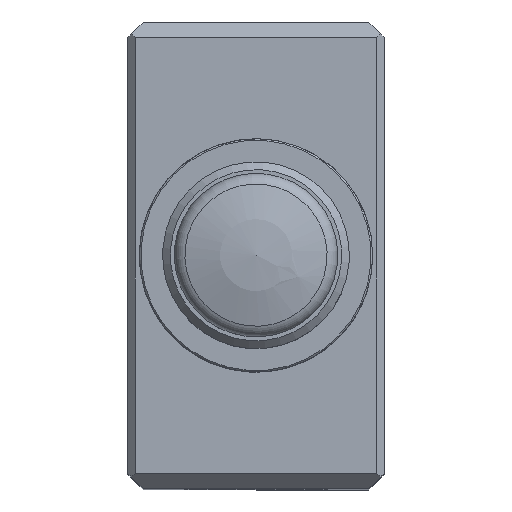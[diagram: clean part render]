
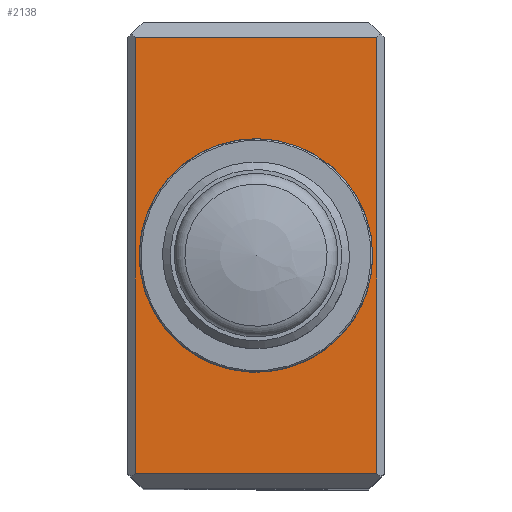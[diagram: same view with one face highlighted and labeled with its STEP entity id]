
A CAD part, top view. The second image highlights one B-rep face of the part: STEP entity #2138.
In plain terms, the highlighted planar face has unit normal (0, 0, 1).
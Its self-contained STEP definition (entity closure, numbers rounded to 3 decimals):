
#43 = LINE ( 'NONE', #3323, #3299 ) ;
#70 = EDGE_LOOP ( 'NONE', ( #557, #2715, #8290, #3292 ) ) ;
#98 = CARTESIAN_POINT ( 'NONE',  ( -7.75, 14., 40. ) ) ;
#557 = ORIENTED_EDGE ( 'NONE', *, *, #3692, .T. ) ;
#588 = EDGE_CURVE ( 'NONE', #4518, #7256, #2477, .T. ) ;
#620 = FACE_OUTER_BOUND ( 'NONE', #70, .T. ) ;
#787 = CARTESIAN_POINT ( 'NONE',  ( 7.25, -14., 40. ) ) ;
#1227 = ORIENTED_EDGE ( 'NONE', *, *, #4642, .F. ) ;
#1339 = AXIS2_PLACEMENT_3D ( 'NONE', #1741, #6232, #2388 ) ;
#1587 = EDGE_LOOP ( 'NONE', ( #1227 ) ) ;
#1741 = CARTESIAN_POINT ( 'NONE',  ( 0., 0., 40. ) ) ;
#2065 = CARTESIAN_POINT ( 'NONE',  ( -8.25, -15., 40. ) ) ;
#2138 = ADVANCED_FACE ( 'NONE', ( #3869, #620 ), #6529, .T. ) ;
#2180 = LINE ( 'NONE', #5139, #5374 ) ;
#2388 = DIRECTION ( 'NONE',  ( 1., 0., 0. ) ) ;
#2477 = LINE ( 'NONE', #787, #7425 ) ;
#2715 = ORIENTED_EDGE ( 'NONE', *, *, #5655, .T. ) ;
#2752 = CARTESIAN_POINT ( 'NONE',  ( -7.25, 14., 40. ) ) ;
#2833 = AXIS2_PLACEMENT_3D ( 'NONE', #2065, #3359, #7869 ) ;
#3292 = ORIENTED_EDGE ( 'NONE', *, *, #4327, .T. ) ;
#3299 = VECTOR ( 'NONE', #3966, 1000. ) ;
#3323 = CARTESIAN_POINT ( 'NONE',  ( 7.75, 14., 40. ) ) ;
#3359 = DIRECTION ( 'NONE',  ( 0., 0., 1. ) ) ;
#3692 = EDGE_CURVE ( 'NONE', #5100, #5284, #6965, .T. ) ;
#3754 = VECTOR ( 'NONE', #6601, 1000. ) ;
#3869 = FACE_BOUND ( 'NONE', #1587, .T. ) ;
#3966 = DIRECTION ( 'NONE',  ( 0., 1., 0. ) ) ;
#4129 = VERTEX_POINT ( 'NONE', #5327 ) ;
#4327 = EDGE_CURVE ( 'NONE', #7256, #5100, #43, .T. ) ;
#4518 = VERTEX_POINT ( 'NONE', #4804 ) ;
#4642 = EDGE_CURVE ( 'NONE', #4129, #4129, #7013, .T. ) ;
#4804 = CARTESIAN_POINT ( 'NONE',  ( -7.75, -14., 40. ) ) ;
#5100 = VERTEX_POINT ( 'NONE', #6254 ) ;
#5139 = CARTESIAN_POINT ( 'NONE',  ( -7.75, -14., 40. ) ) ;
#5284 = VERTEX_POINT ( 'NONE', #98 ) ;
#5327 = CARTESIAN_POINT ( 'NONE',  ( 7.5, 0., 40. ) ) ;
#5374 = VECTOR ( 'NONE', #5781, 1000. ) ;
#5655 = EDGE_CURVE ( 'NONE', #5284, #4518, #2180, .T. ) ;
#5781 = DIRECTION ( 'NONE',  ( 0., -1., 0. ) ) ;
#6232 = DIRECTION ( 'NONE',  ( 0., 0., 1. ) ) ;
#6254 = CARTESIAN_POINT ( 'NONE',  ( 7.75, 14., 40. ) ) ;
#6317 = CARTESIAN_POINT ( 'NONE',  ( 7.75, -14., 40. ) ) ;
#6529 = PLANE ( 'NONE',  #2833 ) ;
#6601 = DIRECTION ( 'NONE',  ( -1., 0., 0. ) ) ;
#6965 = LINE ( 'NONE', #2752, #3754 ) ;
#7013 = CIRCLE ( 'NONE', #1339, 7.5 ) ;
#7256 = VERTEX_POINT ( 'NONE', #6317 ) ;
#7425 = VECTOR ( 'NONE', #7758, 1000. ) ;
#7758 = DIRECTION ( 'NONE',  ( 1., 0., 0. ) ) ;
#7869 = DIRECTION ( 'NONE',  ( 1., 0., 0. ) ) ;
#8290 = ORIENTED_EDGE ( 'NONE', *, *, #588, .T. ) ;
